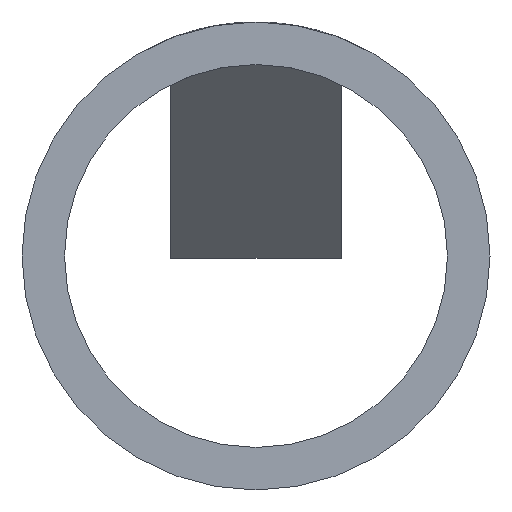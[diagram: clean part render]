
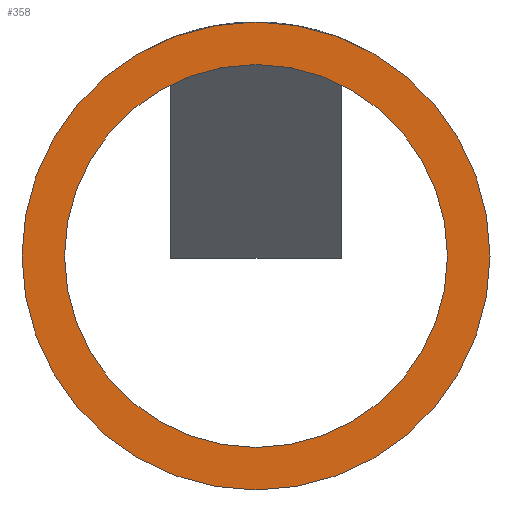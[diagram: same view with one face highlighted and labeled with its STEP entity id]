
A CAD part, front view. The second image highlights one B-rep face of the part: STEP entity #358.
In plain terms, the highlighted planar face has unit normal (0, -1, 0).
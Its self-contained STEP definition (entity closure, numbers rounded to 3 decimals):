
#17 = EDGE_LOOP ( 'NONE', ( #467, #468 ) ) ;
#30 = EDGE_LOOP ( 'NONE', ( #469, #470 ) ) ;
#60 = AXIS2_PLACEMENT_3D ( 'NONE', #299, #297, #296 ) ;
#78 = AXIS2_PLACEMENT_3D ( 'NONE', #181, #169, #168 ) ;
#82 = EDGE_CURVE ( 'NONE', #313, #318, #404, .T. ) ;
#84 = EDGE_CURVE ( 'NONE', #322, #275, #402, .T. ) ;
#88 = EDGE_CURVE ( 'NONE', #275, #322, #400, .T. ) ;
#93 = AXIS2_PLACEMENT_3D ( 'NONE', #303, #302, #301 ) ;
#99 = EDGE_CURVE ( 'NONE', #318, #313, #388, .T. ) ;
#108 = AXIS2_PLACEMENT_3D ( 'NONE', #317, #316, #314 ) ;
#127 = AXIS2_PLACEMENT_3D ( 'NONE', #266, #261, #260 ) ;
#168 = DIRECTION ( 'NONE',  ( -1., 0., 0. ) ) ;
#169 = DIRECTION ( 'NONE',  ( 0., -1., 0. ) ) ;
#170 = PLANE ( 'NONE',  #78 ) ;
#181 = CARTESIAN_POINT ( 'NONE',  ( 0., 0., 0. ) ) ;
#220 = CARTESIAN_POINT ( 'NONE',  ( -5.5, 0., 0. ) ) ;
#222 = CARTESIAN_POINT ( 'NONE',  ( 4.5, 0., 0. ) ) ;
#224 = CARTESIAN_POINT ( 'NONE',  ( -4.5, 0., 0. ) ) ;
#257 = CARTESIAN_POINT ( 'NONE',  ( 5.5, 0., 0. ) ) ;
#260 = DIRECTION ( 'NONE',  ( -1., 0., 0. ) ) ;
#261 = DIRECTION ( 'NONE',  ( 0., -1., 0. ) ) ;
#266 = CARTESIAN_POINT ( 'NONE',  ( 0., 0., 0. ) ) ;
#275 = VERTEX_POINT ( 'NONE', #257 ) ;
#296 = DIRECTION ( 'NONE',  ( -1., 0., 0. ) ) ;
#297 = DIRECTION ( 'NONE',  ( 0., -1., 0. ) ) ;
#299 = CARTESIAN_POINT ( 'NONE',  ( 0., 0., 0. ) ) ;
#301 = DIRECTION ( 'NONE',  ( -1., 0., 0. ) ) ;
#302 = DIRECTION ( 'NONE',  ( 0., -1., 0. ) ) ;
#303 = CARTESIAN_POINT ( 'NONE',  ( 0., 0., 0. ) ) ;
#313 = VERTEX_POINT ( 'NONE', #224 ) ;
#314 = DIRECTION ( 'NONE',  ( -1., 0., 0. ) ) ;
#316 = DIRECTION ( 'NONE',  ( 0., -1., 0. ) ) ;
#317 = CARTESIAN_POINT ( 'NONE',  ( 0., 0., 0. ) ) ;
#318 = VERTEX_POINT ( 'NONE', #222 ) ;
#322 = VERTEX_POINT ( 'NONE', #220 ) ;
#358 = ADVANCED_FACE ( 'NONE', ( #438, #440 ), #170, .T. ) ;
#388 = CIRCLE ( 'NONE', #127, 4.5 ) ;
#400 = CIRCLE ( 'NONE', #60, 5.5 ) ;
#402 = CIRCLE ( 'NONE', #93, 5.5 ) ;
#404 = CIRCLE ( 'NONE', #108, 4.5 ) ;
#438 = FACE_OUTER_BOUND ( 'NONE', #17, .T. ) ;
#440 = FACE_BOUND ( 'NONE', #30, .T. ) ;
#467 = ORIENTED_EDGE ( 'NONE', *, *, #88, .T. ) ;
#468 = ORIENTED_EDGE ( 'NONE', *, *, #84, .T. ) ;
#469 = ORIENTED_EDGE ( 'NONE', *, *, #99, .F. ) ;
#470 = ORIENTED_EDGE ( 'NONE', *, *, #82, .F. ) ;
